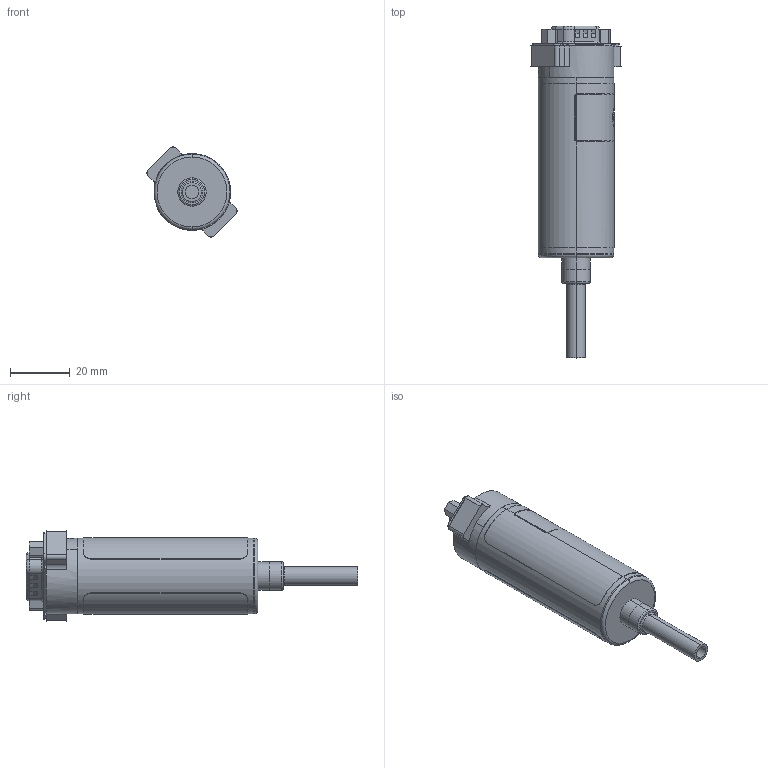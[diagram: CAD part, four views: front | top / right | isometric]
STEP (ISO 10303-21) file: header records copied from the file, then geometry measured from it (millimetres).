
FILE_DESCRIPTION (( 'STEP AP214' ), '1' );
FILE_NAME ('GSD-XXXXXX-K-XXX-4S.STEP', '2025-06-23T14:52:48', ( '' ), ( '' ), 'SwSTEP 2.0', 'SolidWorks 2023', '' );
FILE_SCHEMA (( 'AUTOMOTIVE_DESIGN' ));
Length unit declared in the file: inch
Products named in the file (4): GSD-XXXXXX-K-XXX-4S; GS K; 318Z142; GSx Body_Integrated Connector
Assembly tree (3 placements, depth 2):
  GSD-XXXXXX-K-XXX-4S
    GSx Body_Integrated Connector
    GS K
    318Z142
Bounding box: 30.22 x 111.32 x 30.22 mm (x, y, z)
Volume: 13669.6 mm3; surface area: 15488.1 mm2
Topology: 4 solids, 8 shells, 536 faces, 1385 edges, 898 vertices
Faces by surface type: plane 201, cylinder 184, bspline 96, cone 43, torus 12
Entity records: 20944 total; most frequent: CARTESIAN_POINT 8291, ORIENTED_EDGE 2762, DIRECTION 2444, EDGE_CURVE 1381, AXIS2_PLACEMENT_3D 939, VERTEX_POINT 898, EDGE_LOOP 591, LINE 566
